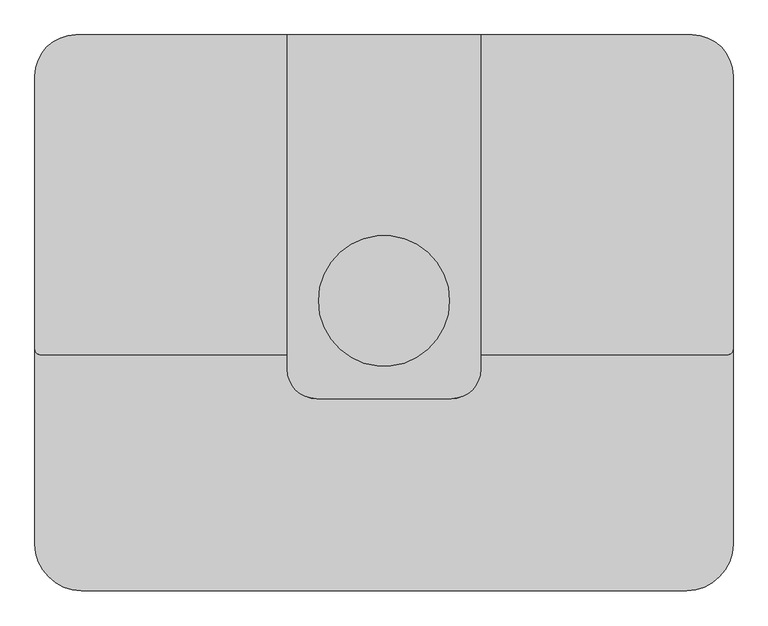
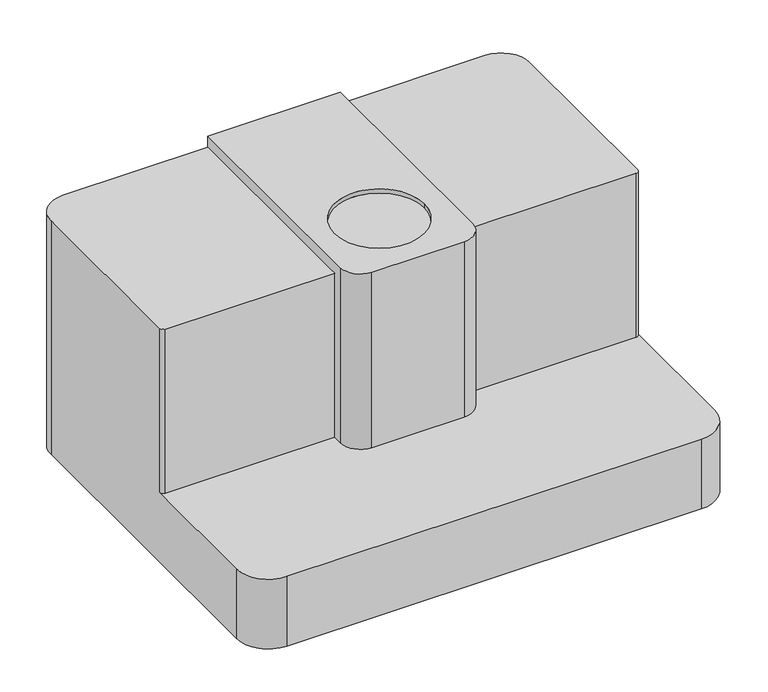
"""IFC4 building model written with IfcOpenShell, lengths in millimetres: unitary equipment geometry, ME_PE_UN_Muli Nova DDP_ACO : Muli-Nova DDP1.1."""

from ifc_helpers import new_model, si_unit, frame, origin, place, context, project, spatial, polyline, circle_curve, source, transform, mapped, element, save
from ifc_brep_helpers import plane_surface, cylinder_surface, revolved_surface, advanced_brep


def unitary_equipment_f9f8fc57(model_context):
    return source(origin(), model_context, "Body", "AdvancedBrep", [
        advanced_brep(
        [(-166.0, -72.5, 620.0), (-166.0, 477.5, 620.0), (-530.0, 477.5, 620.0), (-600.0, 407.5, 620.0), (-600.0, -62.5, 620.0), (-590.0, -72.5, 620.0), (166.0, 477.5, 620.0), (166.0, -72.5, 620.0), (590.0, -72.5, 620.0), (600.0, -62.5, 620.0), (600.0, 407.5, 620.0), (530.0, 477.5, 620.0), (-166.0, -97.5, 650.0), (-116.0, -147.5, 650.0), (116.0, -147.5, 650.0), (166.0, -97.5, 650.0), (166.0, 477.5, 650.0), (-166.0, 477.5, 650.0), (-112.5, 20.5, 650.0), (112.5, 20.5, 650.0), (-530.0, 477.5, 0.0), (530.0, 477.5, 0.0), (600.0, 407.5, 0.0), (600.0, -397.5, 0.0), (520.0, -477.5, 0.0), (-520.0, -477.5, 0.0), (-600.0, -397.5, 0.0), (-600.0, 407.5, 0.0), (-530.0, 477.5, 185.0), (-600.0, -397.5, 185.0), (-600.0, -62.5, 185.0), (-590.0, -72.5, 185.0), (-166.0, -72.5, 185.0), (-166.0, -97.5, 185.0), (-116.0, -147.5, 185.0), (116.0, -147.5, 185.0), (166.0, -97.5, 185.0), (166.0, -72.5, 185.0), (590.0, -72.5, 185.0), (600.0, -397.5, 185.0), (600.0, -62.5, 185.0), (530.0, 477.5, 185.0), (-113.0, 477.5, 500.0), (-113.0, 477.5, 95.0), (113.0, 477.5, 95.0), (113.0, 477.5, 500.0), (-520.0, -477.5, 185.0), (520.0, -477.5, 185.0), (-113.0, 396.5, 500.0), (113.0, 396.5, 500.0), (113.0, 396.5, 95.0), (-113.0, 396.5, 95.0), (112.5, 20.5, 639.1521131), (-112.5, 20.5, 639.1521131)],
        [
            (0, 1),
            (1, 2),
            (2, 3, circle_curve(frame((-530.0, 407.5, 620.0), z_axis=(0.0, 0.0, 1.0), x_axis=(1.0, 0.0, 0.0)), 70.0)),
            (3, 4),
            (4, 5, circle_curve(frame((-590.0, -62.5, 620.0), z_axis=(0.0, 0.0, 1.0), x_axis=(1.0, 0.0, 0.0)), 10.0)),
            (5, 0),
            (6, 7),
            (7, 8),
            (8, 9, circle_curve(frame((590.0, -62.5, 620.0), z_axis=(0.0, 0.0, 1.0), x_axis=(1.0, 0.0, 0.0)), 10.0)),
            (9, 10),
            (10, 11, circle_curve(frame((530.0, 407.5, 620.0), z_axis=(0.0, 0.0, 1.0), x_axis=(1.0, 0.0, 0.0)), 70.0)),
            (11, 6),
            (12, 13, circle_curve(frame((-116.0, -97.5, 650.0), z_axis=(0.0, 0.0, 1.0), x_axis=(1.0, 0.0, 0.0)), 50.0)),
            (13, 14),
            (14, 15, circle_curve(frame((116.0, -97.5, 650.0), z_axis=(0.0, 0.0, 1.0), x_axis=(1.0, 0.0, 0.0)), 50.0)),
            (15, 16),
            (16, 17),
            (17, 12),
            (18, 19, circle_curve(frame((0.0, 20.5, 650.0), z_axis=(0.0, 0.0, -1.0), x_axis=(-1.0, 0.0, 0.0)), 112.5)),
            (19, 18, circle_curve(frame((0.0, 20.5, 650.0), z_axis=(0.0, 0.0, -1.0), x_axis=(-1.0, 0.0, 0.0)), 112.5)),
            (20, 21),
            (21, 22, circle_curve(frame((530.0, 407.5, 0.0), z_axis=(0.0, 0.0, -1.0), x_axis=(1.0, 0.0, 0.0)), 70.0)),
            (22, 23),
            (23, 24, circle_curve(frame((520.0, -397.5, 0.0), z_axis=(0.0, 0.0, -1.0), x_axis=(1.0, 0.0, 0.0)), 80.0)),
            (24, 25),
            (25, 26, circle_curve(frame((-520.0, -397.5, 0.0), z_axis=(0.0, 0.0, -1.0), x_axis=(1.0, 0.0, 0.0)), 80.0)),
            (26, 27),
            (27, 20, circle_curve(frame((-530.0, 407.5, 0.0), z_axis=(0.0, 0.0, -1.0), x_axis=(1.0, 0.0, 0.0)), 70.0)),
            (27, 3),
            (2, 28),
            (28, 20),
            (26, 29),
            (29, 30),
            (30, 4),
            (31, 32),
            (32, 0),
            (5, 31),
            (33, 12),
            (17, 1),
            (32, 33),
            (13, 34),
            (34, 35),
            (35, 14),
            (15, 36),
            (36, 37),
            (37, 7),
            (6, 16),
            (37, 38),
            (38, 8),
            (39, 23),
            (22, 10),
            (9, 40),
            (40, 39),
            (21, 41),
            (41, 11),
            (42, 43),
            (43, 44),
            (44, 45),
            (45, 42, circle_curve(frame((0.0, 477.5, 500.0), z_axis=(0.0, -1.0, 0.0), x_axis=(-1.0, 0.0, 0.0)), 113.0)),
            (33, 34, circle_curve(frame((-116.0, -97.5, 185.0), z_axis=(0.0, 0.0, 1.0), x_axis=(1.0, 0.0, 0.0)), 50.0)),
            (35, 36, circle_curve(frame((116.0, -97.5, 185.0), z_axis=(0.0, 0.0, 1.0), x_axis=(1.0, 0.0, 0.0)), 50.0)),
            (30, 31, circle_curve(frame((-590.0, -62.5, 185.0), z_axis=(0.0, 0.0, 1.0), x_axis=(1.0, 0.0, 0.0)), 10.0)),
            (38, 40, circle_curve(frame((590.0, -62.5, 185.0), z_axis=(0.0, 0.0, 1.0), x_axis=(1.0, 0.0, 0.0)), 10.0)),
            (29, 46, circle_curve(frame((-520.0, -397.5, 185.0), z_axis=(0.0, 0.0, 1.0), x_axis=(1.0, 0.0, 0.0)), 80.0)),
            (46, 47),
            (47, 39, circle_curve(frame((520.0, -397.5, 185.0), z_axis=(0.0, 0.0, 1.0), x_axis=(1.0, 0.0, 0.0)), 80.0)),
            (25, 46),
            (24, 47),
            (48, 49, circle_curve(frame((0.0, 396.5, 500.0), z_axis=(0.0, 1.0, 0.0), x_axis=(-1.0, 0.0, 0.0)), 113.0)),
            (49, 50),
            (50, 51),
            (51, 48),
            (51, 43),
            (42, 48),
            (50, 44),
            (49, 45),
            (52, 53, circle_curve(frame((0.0, 20.5, 639.1521131), z_axis=(0.0, 0.0, 1.0), x_axis=(-1.0, 0.0, 0.0)), 112.5)),
            (53, 52, circle_curve(frame((0.0, 20.5, 639.1521131), z_axis=(0.0, 0.0, 1.0), x_axis=(-1.0, 0.0, 0.0)), 112.5)),
            (52, 19),
            (18, 53),
        ],
        [
            plane_surface(frame((-590.0, -72.5, 620.0), z_axis=(0.0, 0.0, 1.0), x_axis=(-1.0, 0.0, 0.0))),
            plane_surface(frame((-460.0, 407.5, 650.0), z_axis=(0.0, 0.0, 1.0), x_axis=(0.0, 1.0, 0.0))),
            plane_surface(frame((-460.0, 407.5, 0.0), z_axis=(0.0, 0.0, -1.0), x_axis=(0.0, -1.0, 0.0))),
            cylinder_surface(frame((-530.0, 407.5, 0.0), z_axis=(0.0, 0.0, 1.0), x_axis=(1.0, 0.0, 0.0)), 70.0),
            plane_surface(frame((-600.0, 407.5, 650.0), z_axis=(-1.0, 0.0, 0.0), x_axis=(0.0, 0.0, -1.0))),
            plane_surface(frame((-590.0, -72.5, 650.0), z_axis=(0.0, -1.0, 0.0), x_axis=(0.0, 0.0, -1.0))),
            plane_surface(frame((-166.0, -72.5, 650.0), z_axis=(-1.0, 0.0, 0.0), x_axis=(0.0, 0.0, -1.0))),
            plane_surface(frame((-116.0, -147.5, 650.0), z_axis=(0.0, -1.0, 0.0), x_axis=(0.0, 0.0, -1.0))),
            plane_surface(frame((166.0, -97.5, 650.0), z_axis=(1.0, 0.0, 0.0), x_axis=(0.0, 0.0, -1.0))),
            plane_surface(frame((166.0, -72.5, 650.0), z_axis=(0.0, -1.0, 0.0), x_axis=(0.0, 0.0, -1.0))),
            plane_surface(frame((600.0, -62.5, 650.0), z_axis=(1.0, 0.0, 0.0), x_axis=(0.0, 0.0, -1.0))),
            cylinder_surface(frame((530.0, 407.5, 0.0), z_axis=(0.0, 0.0, 1.0), x_axis=(1.0, 0.0, 0.0)), 70.0),
            plane_surface(frame((530.0, 477.5, 650.0), z_axis=(0.0, 1.0, 0.0), x_axis=(0.0, 0.0, -1.0))),
            cylinder_surface(frame((-116.0, -97.5, 0.0), z_axis=(0.0, 0.0, 1.0), x_axis=(1.0, 0.0, 0.0)), 50.0),
            cylinder_surface(frame((116.0, -97.5, 0.0), z_axis=(0.0, 0.0, 1.0), x_axis=(1.0, 0.0, 0.0)), 50.0),
            cylinder_surface(frame((-590.0, -62.5, 0.0), z_axis=(0.0, 0.0, 1.0), x_axis=(1.0, 0.0, 0.0)), 10.0),
            cylinder_surface(frame((590.0, -62.5, 0.0), z_axis=(0.0, 0.0, 1.0), x_axis=(1.0, 0.0, 0.0)), 10.0),
            plane_surface(frame((-530.0, 477.5, 185.0), z_axis=(0.0, 0.0, 1.0), x_axis=(-1.0, 0.0, 0.0))),
            cylinder_surface(frame((-520.0, -397.5, 0.0), z_axis=(0.0, 0.0, 1.0), x_axis=(1.0, 0.0, 0.0)), 80.0),
            plane_surface(frame((-520.0, -477.5, 185.0), z_axis=(0.0, -1.0, 0.0), x_axis=(0.0, 0.0, -1.0))),
            cylinder_surface(frame((520.0, -397.5, 0.0), z_axis=(0.0, 0.0, 1.0), x_axis=(1.0, 0.0, 0.0)), 80.0),
            plane_surface(frame((-113.0, 396.5, 500.0), z_axis=(0.0, 1.0, 0.0), x_axis=(0.0, 0.0, -1.0))),
            plane_surface(frame((-113.0, 396.5, 500.0), z_axis=(1.0, 0.0, 0.0), x_axis=(0.0, 1.0, 0.0))),
            plane_surface(frame((-113.0, 396.5, 95.0), z_axis=(0.0, 0.0, 1.0), x_axis=(0.0, 1.0, 0.0))),
            plane_surface(frame((113.0, 396.5, 95.0), z_axis=(-1.0, 0.0, 0.0), x_axis=(0.0, 1.0, 0.0))),
            revolved_surface(polyline([(-113.0, 396.5, 500.0), (-113.0, 477.5, 500.0)]), (0.0, 477.5, 500.0), (0.0, -1.0, 0.0)),
            plane_surface(frame((-112.5, 20.5, 639.1521131), z_axis=(0.0, 0.0, 1.0), x_axis=(0.0, 1.0, 0.0))),
            revolved_surface(polyline([(-112.5, 20.5, 650.0), (-112.5, 20.5, 639.1521131)]), (0.0, 20.5, 639.1521131), (0.0, 0.0, 1.0)),
        ],
        [
            (0, [[1, 2, 3, 4, 5, 6]]),
            (0, [[7, 8, 9, 10, 11, 12]]),
            (1, [[13, 14, 15, 16, 17, 18], [19, 20]]),
            (2, [[21, 22, 23, 24, 25, 26, 27, 28]]),
            (3, [[-28, 29, -3, 30, 31]]),
            (4, [[32, 33, 34, -4, -29, -27]]),
            (5, [[35, 36, -6, 37]]),
            (6, [[38, -18, 39, -1, -36, 40]]),
            (7, [[-14, 41, 42, 43]]),
            (8, [[44, 45, 46, -7, 47, -16]]),
            (9, [[48, 49, -8, -46]]),
            (10, [[50, -23, 51, -10, 52, 53]]),
            (11, [[-22, 54, 55, -11, -51]]),
            (12, [[-21, -31, -30, -2, -39, -17, -47, -12, -55, -54], [56, 57, 58, 59]]),
            (13, [[-13, -38, 60, -41]]),
            (14, [[-15, -43, 61, -44]]),
            (15, [[62, -37, -5, -34]]),
            (16, [[63, -52, -9, -49]]),
            (17, [[64, 65, 66, -53, -63, -48, -45, -61, -42, -60, -40, -35, -62, -33]]),
            (18, [[-64, -32, -26, 67]]),
            (19, [[-65, -67, -25, 68]]),
            (20, [[-66, -68, -24, -50]]),
            (21, [[69, 70, 71, 72]]),
            (22, [[-72, 73, -56, 74]]),
            (23, [[-71, 75, -57, -73]]),
            (24, [[-70, 76, -58, -75]]),
            (25, [[-69, -74, -59, -76]]),
            (26, [[77, 78]]),
            (27, [[-77, 79, -19, 80]]),
            (27, [[-78, -80, -20, -79]]),
        ],
    ),
    ])


if __name__ == "__main__":
    model = new_model("IFC4")
    model_context = context("Model", 3, world=origin())
    ifc_project = project(units=[si_unit("LENGTHUNIT", "METRE", prefix="MILLI")], contexts=[model_context])
    site = spatial("IfcSite", under=ifc_project)
    building = spatial("IfcBuilding", under=site)
    placement = place(None, origin())
    unitary_equipment_shape = unitary_equipment_f9f8fc57(model_context)
    element("IfcUnitaryEquipment", 1, ObjectType="ME_PE_UN_Muli Nova DDP_ACO : Muli-Nova DDP1.1", at=placement, inside=building, context=model_context, shape_type="MappedRepresentation", body=[
        mapped(unitary_equipment_shape, transform((0.0, 0.0, 0.0), x_axis=(1.0, 0.0, 0.0), y_axis=(0.0, 1.0, 0.0), z_axis=(0.0, 0.0, 1.0))),
    ])
    save(model, "model.ifc")
